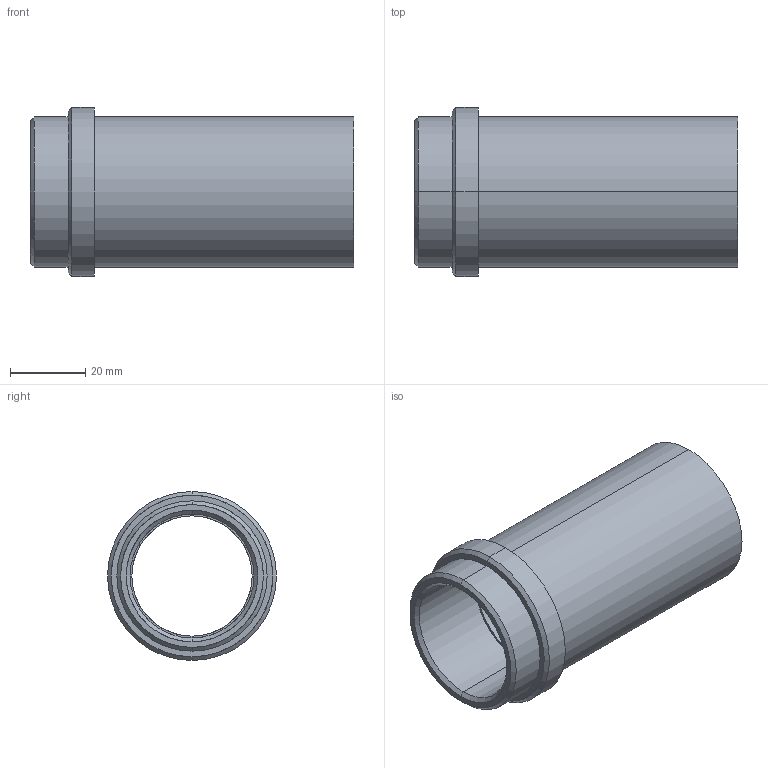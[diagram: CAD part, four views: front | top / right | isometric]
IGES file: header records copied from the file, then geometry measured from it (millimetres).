
Start section: START RECORD GO HERE.
Global section: file name: 358-32x86.igs; native system: DASSAULT SYSTEMES CATIA V5 R20 - www.3ds.com; preprocessor: CATIA Version 5 Release 20 ; author: Utente; organization: NB04-ASUS; date: 20210409.151455; units: millimetre
Bounding box: 86 x 45 x 45 mm (x, y, z)
Surface area: 20901.2 mm2 (no closed solid volume)
Topology: 0 solids, 0 shells, 23 faces, 148 edges, 148 vertices
Faces by surface type: revolution 18, plane 5
